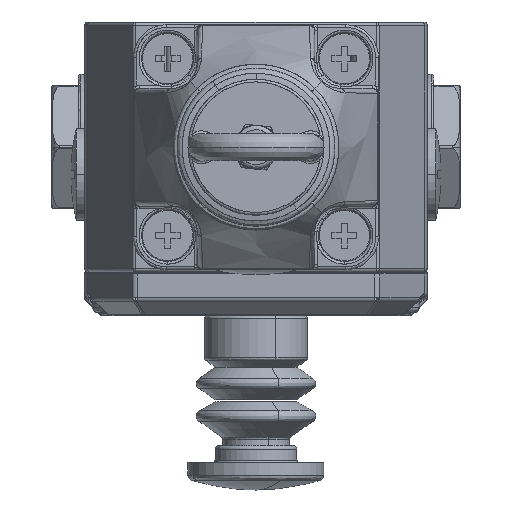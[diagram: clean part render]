
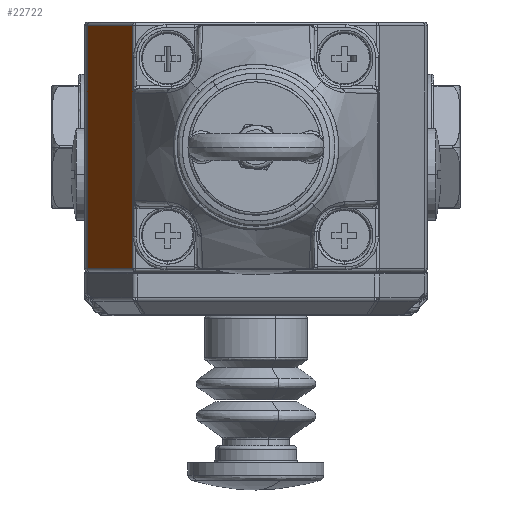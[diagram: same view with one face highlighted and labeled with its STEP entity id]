
A CAD part, front view. The second image highlights one B-rep face of the part: STEP entity #22722.
In plain terms, the highlighted planar face has unit normal (-0.906, -0.423, 0).
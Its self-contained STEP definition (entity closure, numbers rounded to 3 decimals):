
#963 = VECTOR ( 'NONE', #57654, 1000. ) ;
#5179 = VERTEX_POINT ( 'NONE', #76519 ) ;
#7836 = VERTEX_POINT ( 'NONE', #54683 ) ;
#9672 = DIRECTION ( 'NONE',  ( 0.423, -0.906, 0. ) ) ;
#10830 = ORIENTED_EDGE ( 'NONE', *, *, #31028, .T. ) ;
#12260 = CARTESIAN_POINT ( 'NONE',  ( 0.468, -92.204, 0.7 ) ) ;
#15057 = CARTESIAN_POINT ( 'NONE',  ( 0.468, -92.204, 23. ) ) ;
#16125 = VERTEX_POINT ( 'NONE', #45599 ) ;
#17031 = LINE ( 'NONE', #15057, #963 ) ;
#17903 = CARTESIAN_POINT ( 'NONE',  ( 8.865, -110.211, 23. ) ) ;
#18879 = EDGE_CURVE ( 'NONE', #7836, #34293, #67146, .T. ) ;
#20292 = ORIENTED_EDGE ( 'NONE', *, *, #46612, .T. ) ;
#22697 = VECTOR ( 'NONE', #61201, 1000. ) ;
#22722 = ADVANCED_FACE ( 'NONE', ( #62830 ), #73149, .T. ) ;
#24743 = AXIS2_PLACEMENT_3D ( 'NONE', #12260, #69400, #33152 ) ;
#31028 = EDGE_CURVE ( 'NONE', #34293, #16125, #52435, .T. ) ;
#33152 = DIRECTION ( 'NONE',  ( 0.423, -0.906, 0. ) ) ;
#34293 = VERTEX_POINT ( 'NONE', #48384 ) ;
#38734 = EDGE_CURVE ( 'NONE', #5179, #7836, #17031, .T. ) ;
#38793 = LINE ( 'NONE', #72026, #22697 ) ;
#45599 = CARTESIAN_POINT ( 'NONE',  ( 8.865, -110.211, 45.3 ) ) ;
#46612 = EDGE_CURVE ( 'NONE', #16125, #5179, #38793, .T. ) ;
#48384 = CARTESIAN_POINT ( 'NONE',  ( 8.865, -110.211, 0.7 ) ) ;
#50536 = VECTOR ( 'NONE', #54392, 1000. ) ;
#51016 = VECTOR ( 'NONE', #9672, 1000. ) ;
#52435 = LINE ( 'NONE', #17903, #50536 ) ;
#54392 = DIRECTION ( 'NONE',  ( 0., 0., 1. ) ) ;
#54683 = CARTESIAN_POINT ( 'NONE',  ( 0.468, -92.204, 0.7 ) ) ;
#56407 = ORIENTED_EDGE ( 'NONE', *, *, #38734, .T. ) ;
#57654 = DIRECTION ( 'NONE',  ( 0., 0., -1. ) ) ;
#58083 = CARTESIAN_POINT ( 'NONE',  ( 4.667, -101.208, 0.7 ) ) ;
#61201 = DIRECTION ( 'NONE',  ( -0.423, 0.906, 0. ) ) ;
#62830 = FACE_OUTER_BOUND ( 'NONE', #75855, .T. ) ;
#67146 = LINE ( 'NONE', #58083, #51016 ) ;
#69400 = DIRECTION ( 'NONE',  ( -0.906, -0.423, 0. ) ) ;
#70544 = ORIENTED_EDGE ( 'NONE', *, *, #18879, .T. ) ;
#72026 = CARTESIAN_POINT ( 'NONE',  ( 4.667, -101.208, 45.3 ) ) ;
#73149 = PLANE ( 'NONE',  #24743 ) ;
#75855 = EDGE_LOOP ( 'NONE', ( #10830, #20292, #56407, #70544 ) ) ;
#76519 = CARTESIAN_POINT ( 'NONE',  ( 0.468, -92.204, 45.3 ) ) ;
